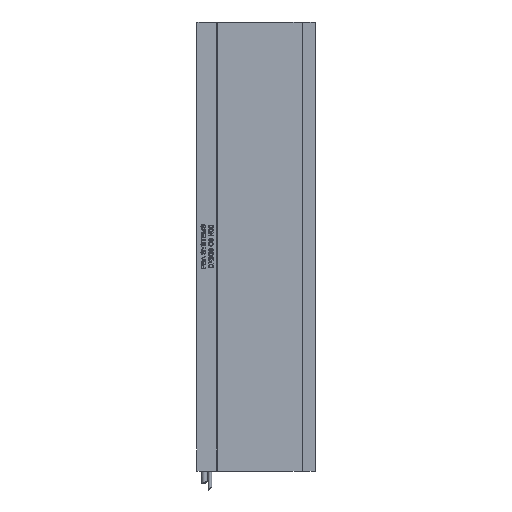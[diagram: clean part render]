
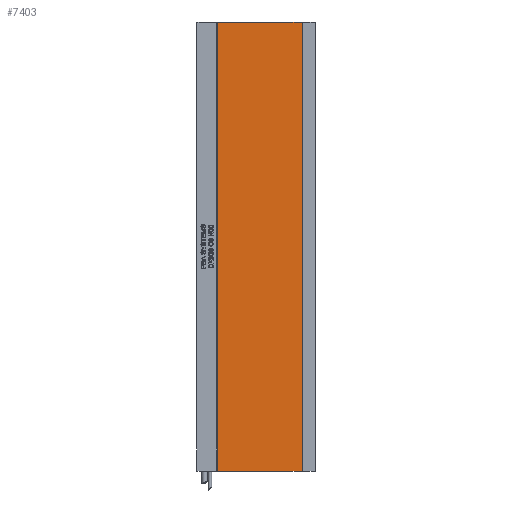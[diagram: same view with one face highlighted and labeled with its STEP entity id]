
A CAD part, left-side view. The second image highlights one B-rep face of the part: STEP entity #7403.
In plain terms, the highlighted planar face has unit normal (-1, 0, 0).
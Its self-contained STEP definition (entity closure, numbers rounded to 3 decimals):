
#1248 = VECTOR ( 'NONE', #33120, 1000. ) ;
#1353 = VERTEX_POINT ( 'NONE', #34649 ) ;
#3443 = AXIS2_PLACEMENT_3D ( 'NONE', #13356, #13546, #13002 ) ;
#3879 = VECTOR ( 'NONE', #5588, 1000. ) ;
#4939 = LINE ( 'NONE', #5533, #3879 ) ;
#5533 = CARTESIAN_POINT ( 'NONE',  ( -5.8, 104.7, 481. ) ) ;
#5588 = DIRECTION ( 'NONE',  ( 0., 0., -1. ) ) ;
#6501 = EDGE_CURVE ( 'NONE', #1353, #29900, #4939, .T. ) ;
#6670 = VERTEX_POINT ( 'NONE', #32763 ) ;
#7403 = ADVANCED_FACE ( 'NONE', ( #35769 ), #13086, .T. ) ;
#8215 = LINE ( 'NONE', #29841, #24056 ) ;
#10244 = EDGE_CURVE ( 'NONE', #6670, #1353, #40505, .T. ) ;
#13002 = DIRECTION ( 'NONE',  ( 0., 0., 1. ) ) ;
#13086 = PLANE ( 'NONE',  #3443 ) ;
#13356 = CARTESIAN_POINT ( 'NONE',  ( -5.8, 14.2, 481. ) ) ;
#13546 = DIRECTION ( 'NONE',  ( -1., 0., 0. ) ) ;
#13984 = DIRECTION ( 'NONE',  ( 0., 1., 0. ) ) ;
#14216 = CARTESIAN_POINT ( 'NONE',  ( -5.8, 14.2, 0. ) ) ;
#17149 = EDGE_LOOP ( 'NONE', ( #27419, #31289, #32335, #38688 ) ) ;
#17275 = DIRECTION ( 'NONE',  ( 0., 0., -1. ) ) ;
#17549 = CARTESIAN_POINT ( 'NONE',  ( -5.8, 104.7, 0. ) ) ;
#19004 = EDGE_CURVE ( 'NONE', #22212, #29900, #26607, .T. ) ;
#20325 = CARTESIAN_POINT ( 'NONE',  ( -5.8, 14.2, 481. ) ) ;
#22212 = VERTEX_POINT ( 'NONE', #31962 ) ;
#22706 = EDGE_CURVE ( 'NONE', #6670, #22212, #8215, .T. ) ;
#24056 = VECTOR ( 'NONE', #17275, 1000. ) ;
#26607 = LINE ( 'NONE', #14216, #1248 ) ;
#27419 = ORIENTED_EDGE ( 'NONE', *, *, #19004, .F. ) ;
#29841 = CARTESIAN_POINT ( 'NONE',  ( -5.8, 14.2, 481. ) ) ;
#29900 = VERTEX_POINT ( 'NONE', #17549 ) ;
#31289 = ORIENTED_EDGE ( 'NONE', *, *, #22706, .F. ) ;
#31962 = CARTESIAN_POINT ( 'NONE',  ( -5.8, 14.2, 0. ) ) ;
#32335 = ORIENTED_EDGE ( 'NONE', *, *, #10244, .T. ) ;
#32763 = CARTESIAN_POINT ( 'NONE',  ( -5.8, 14.2, 481. ) ) ;
#33120 = DIRECTION ( 'NONE',  ( 0., 1., 0. ) ) ;
#34649 = CARTESIAN_POINT ( 'NONE',  ( -5.8, 104.7, 481. ) ) ;
#35769 = FACE_OUTER_BOUND ( 'NONE', #17149, .T. ) ;
#38688 = ORIENTED_EDGE ( 'NONE', *, *, #6501, .T. ) ;
#39538 = VECTOR ( 'NONE', #13984, 1000. ) ;
#40505 = LINE ( 'NONE', #20325, #39538 ) ;
